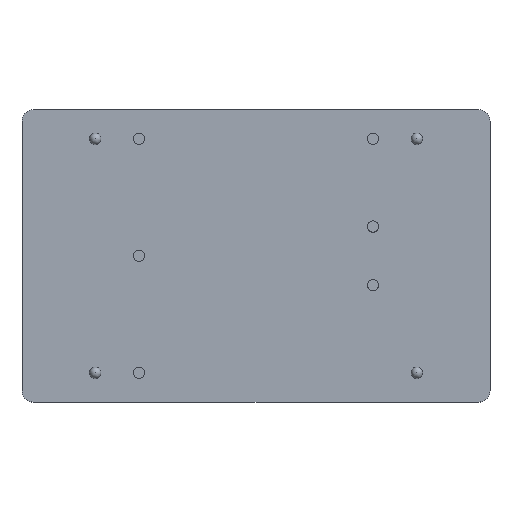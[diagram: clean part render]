
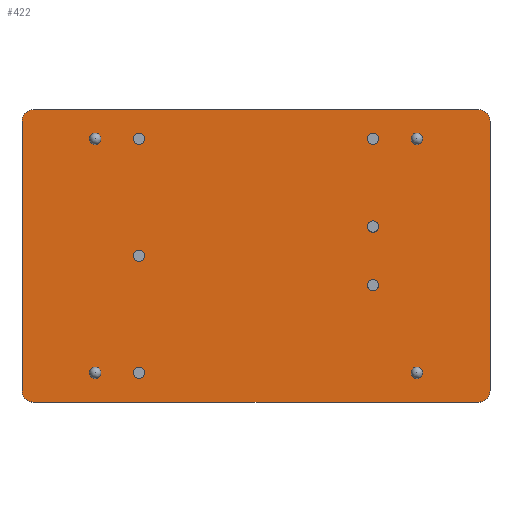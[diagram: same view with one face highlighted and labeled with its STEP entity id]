
A CAD part, top view. The second image highlights one B-rep face of the part: STEP entity #422.
In plain terms, the highlighted planar face has unit normal (0, 0, 1).
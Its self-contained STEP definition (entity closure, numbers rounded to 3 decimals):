
#42=CIRCLE('',#470,0.5);
#43=CIRCLE('',#471,0.5);
#44=CIRCLE('',#472,0.5);
#45=CIRCLE('',#473,0.5);
#46=CIRCLE('',#474,0.5);
#47=CIRCLE('',#475,0.5);
#48=CIRCLE('',#476,0.5);
#49=CIRCLE('',#477,0.5);
#50=CIRCLE('',#478,0.5);
#51=CIRCLE('',#479,0.5);
#52=CIRCLE('',#480,1.);
#53=CIRCLE('',#481,1.);
#54=CIRCLE('',#482,1.);
#55=CIRCLE('',#483,1.);
#90=ORIENTED_EDGE('',*,*,#194,.F.);
#91=ORIENTED_EDGE('',*,*,#195,.F.);
#92=ORIENTED_EDGE('',*,*,#196,.F.);
#93=ORIENTED_EDGE('',*,*,#197,.F.);
#94=ORIENTED_EDGE('',*,*,#198,.F.);
#95=ORIENTED_EDGE('',*,*,#199,.F.);
#96=ORIENTED_EDGE('',*,*,#200,.F.);
#97=ORIENTED_EDGE('',*,*,#201,.F.);
#98=ORIENTED_EDGE('',*,*,#202,.F.);
#99=ORIENTED_EDGE('',*,*,#203,.F.);
#100=ORIENTED_EDGE('',*,*,#180,.T.);
#101=ORIENTED_EDGE('',*,*,#204,.T.);
#102=ORIENTED_EDGE('',*,*,#182,.T.);
#103=ORIENTED_EDGE('',*,*,#205,.T.);
#104=ORIENTED_EDGE('',*,*,#186,.T.);
#105=ORIENTED_EDGE('',*,*,#206,.T.);
#106=ORIENTED_EDGE('',*,*,#192,.T.);
#107=ORIENTED_EDGE('',*,*,#207,.T.);
#180=EDGE_CURVE('',#233,#232,#268,.T.);
#182=EDGE_CURVE('',#234,#235,#270,.T.);
#186=EDGE_CURVE('',#238,#239,#274,.T.);
#192=EDGE_CURVE('',#245,#244,#280,.T.);
#194=EDGE_CURVE('',#246,#246,#42,.T.);
#195=EDGE_CURVE('',#247,#247,#43,.T.);
#196=EDGE_CURVE('',#248,#248,#44,.T.);
#197=EDGE_CURVE('',#249,#249,#45,.T.);
#198=EDGE_CURVE('',#250,#250,#46,.T.);
#199=EDGE_CURVE('',#251,#251,#47,.T.);
#200=EDGE_CURVE('',#252,#252,#48,.T.);
#201=EDGE_CURVE('',#253,#253,#49,.T.);
#202=EDGE_CURVE('',#254,#254,#50,.T.);
#203=EDGE_CURVE('',#255,#255,#51,.T.);
#204=EDGE_CURVE('',#232,#234,#52,.T.);
#205=EDGE_CURVE('',#235,#238,#53,.T.);
#206=EDGE_CURVE('',#239,#245,#54,.T.);
#207=EDGE_CURVE('',#244,#233,#55,.T.);
#232=VERTEX_POINT('',#691);
#233=VERTEX_POINT('',#693);
#234=VERTEX_POINT('',#697);
#235=VERTEX_POINT('',#698);
#238=VERTEX_POINT('',#706);
#239=VERTEX_POINT('',#707);
#244=VERTEX_POINT('',#718);
#245=VERTEX_POINT('',#720);
#246=VERTEX_POINT('',#724);
#247=VERTEX_POINT('',#726);
#248=VERTEX_POINT('',#728);
#249=VERTEX_POINT('',#730);
#250=VERTEX_POINT('',#732);
#251=VERTEX_POINT('',#734);
#252=VERTEX_POINT('',#736);
#253=VERTEX_POINT('',#738);
#254=VERTEX_POINT('',#740);
#255=VERTEX_POINT('',#742);
#268=LINE('',#692,#288);
#270=LINE('',#696,#290);
#274=LINE('',#705,#294);
#280=LINE('',#719,#300);
#288=VECTOR('',#537,1000.);
#290=VECTOR('',#541,1000.);
#294=VECTOR('',#547,1000.);
#300=VECTOR('',#555,1000.);
#310=EDGE_LOOP('',(#90));
#311=EDGE_LOOP('',(#91));
#312=EDGE_LOOP('',(#92));
#313=EDGE_LOOP('',(#93));
#314=EDGE_LOOP('',(#94));
#315=EDGE_LOOP('',(#95));
#316=EDGE_LOOP('',(#96));
#317=EDGE_LOOP('',(#97));
#318=EDGE_LOOP('',(#98));
#319=EDGE_LOOP('',(#99));
#320=EDGE_LOOP('',(#100,#101,#102,#103,#104,#105,#106,#107));
#360=FACE_BOUND('',#310,.T.);
#361=FACE_BOUND('',#311,.T.);
#362=FACE_BOUND('',#312,.T.);
#363=FACE_BOUND('',#313,.T.);
#364=FACE_BOUND('',#314,.T.);
#365=FACE_BOUND('',#315,.T.);
#366=FACE_BOUND('',#316,.T.);
#367=FACE_BOUND('',#317,.T.);
#368=FACE_BOUND('',#318,.T.);
#369=FACE_BOUND('',#319,.T.);
#370=FACE_BOUND('',#320,.T.);
#410=PLANE('',#469);
#422=ADVANCED_FACE('',(#360,#361,#362,#363,#364,#365,#366,#367,#368,#369,
#370),#410,.T.);
#469=AXIS2_PLACEMENT_3D('',#722,#557,#558);
#470=AXIS2_PLACEMENT_3D('',#723,#559,#560);
#471=AXIS2_PLACEMENT_3D('',#725,#561,#562);
#472=AXIS2_PLACEMENT_3D('',#727,#563,#564);
#473=AXIS2_PLACEMENT_3D('',#729,#565,#566);
#474=AXIS2_PLACEMENT_3D('',#731,#567,#568);
#475=AXIS2_PLACEMENT_3D('',#733,#569,#570);
#476=AXIS2_PLACEMENT_3D('',#735,#571,#572);
#477=AXIS2_PLACEMENT_3D('',#737,#573,#574);
#478=AXIS2_PLACEMENT_3D('',#739,#575,#576);
#479=AXIS2_PLACEMENT_3D('',#741,#577,#578);
#480=AXIS2_PLACEMENT_3D('',#743,#579,#580);
#481=AXIS2_PLACEMENT_3D('',#744,#581,#582);
#482=AXIS2_PLACEMENT_3D('',#745,#583,#584);
#483=AXIS2_PLACEMENT_3D('',#746,#585,#586);
#537=DIRECTION('',(0.,1.,0.));
#541=DIRECTION('',(-1.,0.,0.));
#547=DIRECTION('',(0.,-1.,0.));
#555=DIRECTION('',(1.,0.,0.));
#557=DIRECTION('',(0.,0.,1.));
#558=DIRECTION('',(1.,0.,0.));
#559=DIRECTION('',(0.,0.,1.));
#560=DIRECTION('',(1.,0.,0.));
#561=DIRECTION('',(0.,0.,1.));
#562=DIRECTION('',(1.,0.,0.));
#563=DIRECTION('',(0.,0.,1.));
#564=DIRECTION('',(1.,0.,0.));
#565=DIRECTION('',(0.,0.,1.));
#566=DIRECTION('',(1.,0.,0.));
#567=DIRECTION('',(0.,0.,1.));
#568=DIRECTION('',(1.,0.,0.));
#569=DIRECTION('',(0.,0.,1.));
#570=DIRECTION('',(1.,0.,0.));
#571=DIRECTION('',(0.,0.,1.));
#572=DIRECTION('',(1.,0.,0.));
#573=DIRECTION('',(0.,0.,1.));
#574=DIRECTION('',(1.,0.,0.));
#575=DIRECTION('',(0.,0.,1.));
#576=DIRECTION('',(1.,0.,0.));
#577=DIRECTION('',(0.,0.,1.));
#578=DIRECTION('',(1.,0.,0.));
#579=DIRECTION('',(0.,0.,1.));
#580=DIRECTION('',(1.,0.,0.));
#581=DIRECTION('',(0.,0.,1.));
#582=DIRECTION('',(1.,0.,0.));
#583=DIRECTION('',(0.,0.,1.));
#584=DIRECTION('',(1.,0.,0.));
#585=DIRECTION('',(0.,0.,1.));
#586=DIRECTION('',(1.,0.,0.));
#691=CARTESIAN_POINT('',(40.64,24.4,10.4));
#692=CARTESIAN_POINT('',(40.64,0.,10.4));
#693=CARTESIAN_POINT('',(40.64,1.,10.4));
#696=CARTESIAN_POINT('',(40.64,25.4,10.4));
#697=CARTESIAN_POINT('',(39.64,25.4,10.4));
#698=CARTESIAN_POINT('',(1.,25.4,10.4));
#705=CARTESIAN_POINT('',(0.,25.4,10.4));
#706=CARTESIAN_POINT('',(0.,24.4,10.4));
#707=CARTESIAN_POINT('',(0.,1.,10.4));
#718=CARTESIAN_POINT('',(39.64,0.,10.4));
#719=CARTESIAN_POINT('',(0.,0.,10.4));
#720=CARTESIAN_POINT('',(1.,0.,10.4));
#722=CARTESIAN_POINT('',(0.,0.,10.4));
#723=CARTESIAN_POINT('',(34.29,22.86,10.4));
#724=CARTESIAN_POINT('',(34.79,22.86,10.4));
#725=CARTESIAN_POINT('',(34.29,2.54,10.4));
#726=CARTESIAN_POINT('',(34.79,2.54,10.4));
#727=CARTESIAN_POINT('',(6.35,2.54,10.4));
#728=CARTESIAN_POINT('',(6.85,2.54,10.4));
#729=CARTESIAN_POINT('',(6.35,22.86,10.4));
#730=CARTESIAN_POINT('',(6.85,22.86,10.4));
#731=CARTESIAN_POINT('',(30.48,22.86,10.4));
#732=CARTESIAN_POINT('',(30.98,22.86,10.4));
#733=CARTESIAN_POINT('',(30.48,15.24,10.4));
#734=CARTESIAN_POINT('',(30.98,15.24,10.4));
#735=CARTESIAN_POINT('',(30.48,10.16,10.4));
#736=CARTESIAN_POINT('',(30.98,10.16,10.4));
#737=CARTESIAN_POINT('',(10.16,22.86,10.4));
#738=CARTESIAN_POINT('',(10.66,22.86,10.4));
#739=CARTESIAN_POINT('',(10.16,12.7,10.4));
#740=CARTESIAN_POINT('',(10.66,12.7,10.4));
#741=CARTESIAN_POINT('',(10.16,2.54,10.4));
#742=CARTESIAN_POINT('',(10.66,2.54,10.4));
#743=CARTESIAN_POINT('',(39.64,24.4,10.4));
#744=CARTESIAN_POINT('',(1.,24.4,10.4));
#745=CARTESIAN_POINT('',(1.,1.,10.4));
#746=CARTESIAN_POINT('',(39.64,1.,10.4));
